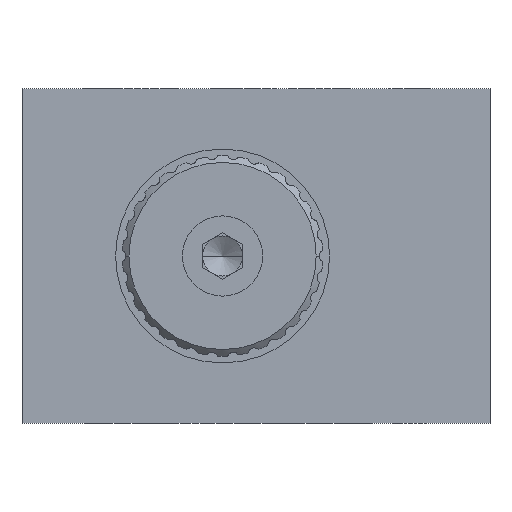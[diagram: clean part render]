
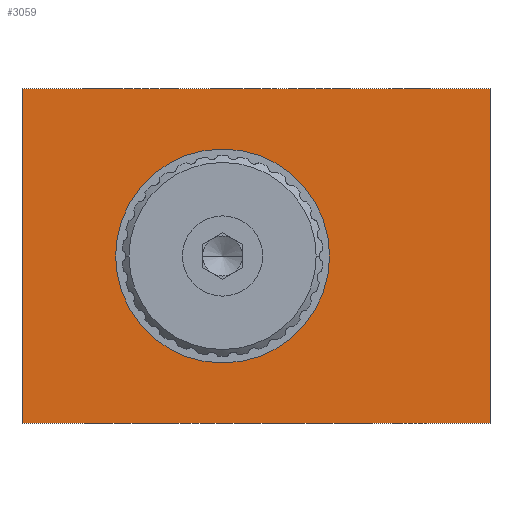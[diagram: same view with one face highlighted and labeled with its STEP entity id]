
A CAD part, left-side view. The second image highlights one B-rep face of the part: STEP entity #3059.
In plain terms, the highlighted planar face has unit normal (-1, 0, 0).
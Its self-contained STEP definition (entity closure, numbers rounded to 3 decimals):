
#91=DIRECTION('',(0.,1.,0.));
#92=VECTOR('',#91,70.);
#93=CARTESIAN_POINT('',(0.,0.,0.));
#94=LINE('',#93,#92);
#95=DIRECTION('',(0.,0.,-1.));
#96=VECTOR('',#95,50.);
#97=CARTESIAN_POINT('',(0.,0.,50.));
#98=LINE('',#97,#96);
#99=CARTESIAN_POINT('',(0.,40.,25.));
#100=DIRECTION('',(-1.,0.,0.));
#101=DIRECTION('',(0.,-1.,0.));
#102=AXIS2_PLACEMENT_3D('',#99,#100,#101);
#104=CARTESIAN_POINT('',(0.,40.,25.));
#105=DIRECTION('',(-1.,0.,0.));
#106=DIRECTION('',(0.,1.,0.));
#107=AXIS2_PLACEMENT_3D('',#104,#105,#106);
#113=DIRECTION('',(0.,0.,-1.));
#114=VECTOR('',#113,50.);
#115=CARTESIAN_POINT('',(0.,70.,50.));
#116=LINE('',#115,#114);
#143=DIRECTION('',(0.,1.,0.));
#144=VECTOR('',#143,70.);
#145=CARTESIAN_POINT('',(0.,0.,50.));
#146=LINE('',#145,#144);
#2491=CARTESIAN_POINT('',(0.,0.,0.));
#2492=CARTESIAN_POINT('',(0.,70.,0.));
#2493=VERTEX_POINT('',#2491);
#2494=VERTEX_POINT('',#2492);
#2535=CARTESIAN_POINT('',(0.,70.,50.));
#2536=VERTEX_POINT('',#2535);
#2537=CARTESIAN_POINT('',(0.,0.,50.));
#2538=VERTEX_POINT('',#2537);
#2539=CARTESIAN_POINT('',(0.,24.,25.));
#2540=CARTESIAN_POINT('',(0.,56.,25.));
#2541=VERTEX_POINT('',#2539);
#2542=VERTEX_POINT('',#2540);
#3039=CARTESIAN_POINT('',(0.,70.,0.));
#3040=DIRECTION('',(-1.,0.,0.));
#3041=DIRECTION('',(0.,-1.,0.));
#3042=AXIS2_PLACEMENT_3D('',#3039,#3040,#3041);
#3043=PLANE('',#3042);
#3044=ORIENTED_EDGE('',*,*,#2974,.T.);
#3046=ORIENTED_EDGE('',*,*,#3045,.F.);
#3048=ORIENTED_EDGE('',*,*,#3047,.F.);
#3050=ORIENTED_EDGE('',*,*,#3049,.T.);
#3051=EDGE_LOOP('',(#3044,#3046,#3048,#3050));
#3052=FACE_OUTER_BOUND('',#3051,.F.);
#3054=ORIENTED_EDGE('',*,*,#3053,.T.);
#3056=ORIENTED_EDGE('',*,*,#3055,.T.);
#3057=EDGE_LOOP('',(#3054,#3056));
#3058=FACE_BOUND('',#3057,.F.);
#103=CIRCLE('',#102,16.);
#108=CIRCLE('',#107,16.);
#2974=EDGE_CURVE('',#2493,#2494,#94,.T.);
#3045=EDGE_CURVE('',#2536,#2494,#116,.T.);
#3047=EDGE_CURVE('',#2538,#2536,#146,.T.);
#3049=EDGE_CURVE('',#2538,#2493,#98,.T.);
#3053=EDGE_CURVE('',#2541,#2542,#103,.T.);
#3055=EDGE_CURVE('',#2542,#2541,#108,.T.);
#3059=ADVANCED_FACE('',(#3052,#3058),#3043,.T.);
